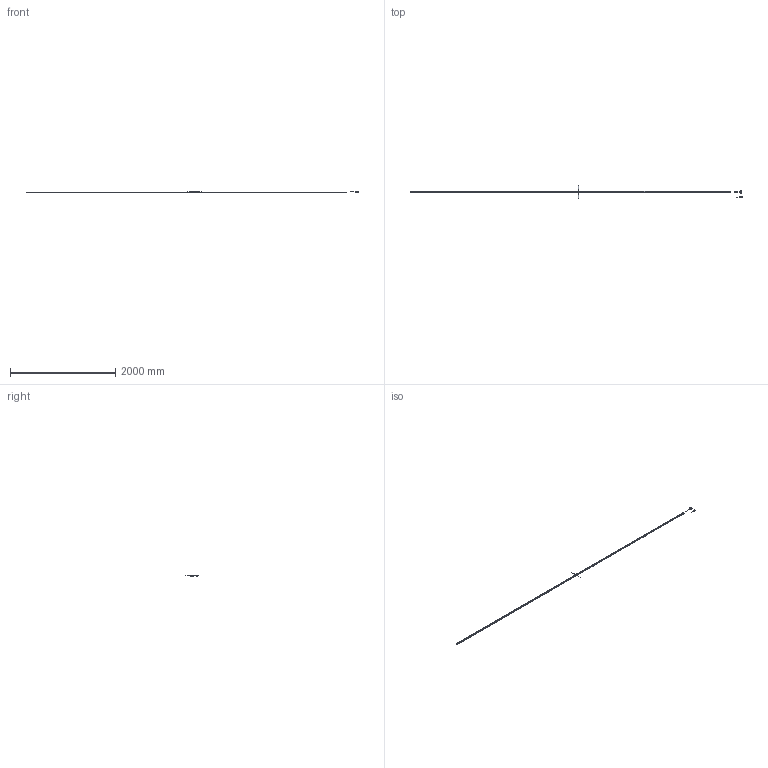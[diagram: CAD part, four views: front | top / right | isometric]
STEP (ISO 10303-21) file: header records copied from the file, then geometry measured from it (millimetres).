
FILE_DESCRIPTION(('Creo Elements/Direct Modeling STEP Export'),'2;1');
FILE_NAME('ABS_ST700-6000A.stp','2018-02-14T13:57:41',(''),(''),'Creo Elements/Direct Modeling STEP processor for AP214 (Solid Model)','Creo Elements/Direct Modeling 18.1B 29-Sep-2012 (C) Parametric Technology GmbH','');
FILE_SCHEMA(('AUTOMOTIVE_DESIGN { 1 0 10303 214 1 1 1 1 }'));
Length unit declared in the file: millimetre
Products named in the file (10): Scale_6000; Connector（Dsub15pin）; Connector（Dsub9pin）; Connector; Detector_Head_D; Detector_Head_L; Detector_Head_R; Detector_Head_U; Detector_Head; ABS_ST700L-6000A
Assembly tree (9 placements, depth 3):
  ABS_ST700L-6000A
    Detector_Head
      Detector_Head_U
      Detector_Head_R
      Detector_Head_L
      Detector_Head_D
    Connector
      Connector（Dsub9pin）
      Connector（Dsub15pin）
    Scale_6000
Bounding box: 6294.5 x 227.7 x 23.3 mm (x, y, z)
Volume: 1185388.8 mm3; surface area: 438131 mm2
Topology: 8 solids, 8 shells, 6999 faces, 19154 edges, 12594 vertices
Faces by surface type: plane 5407, cylinder 1253, cone 213, torus 58, extrusion 36, bspline 24, revolution 8
Entity records: 223692 total; most frequent: CARTESIAN_POINT 45902, ORIENTED_EDGE 38228, DIRECTION 34497, EDGE_CURVE 19114, VECTOR 16047, LINE 16031, VERTEX_POINT 12592, AXIS2_PLACEMENT_3D 9219
